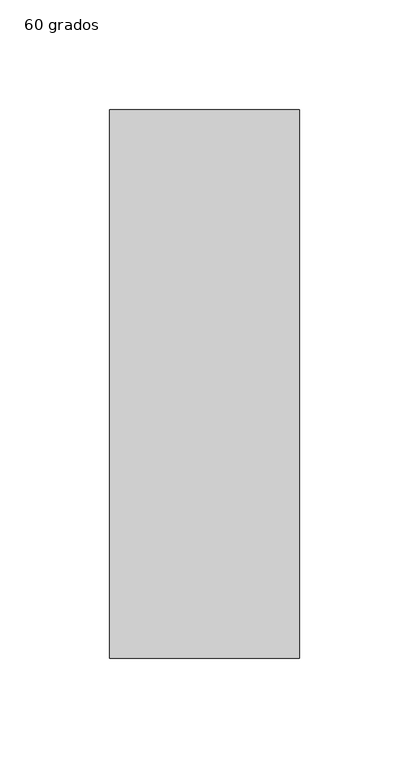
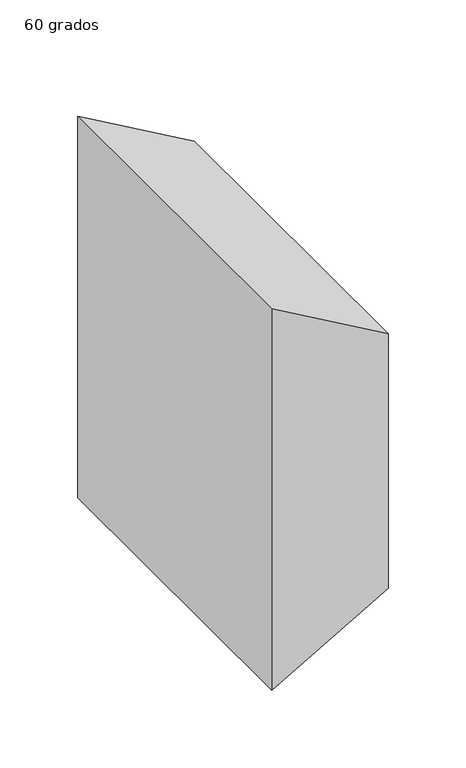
"""IFC4 building model written with IfcOpenShell, lengths in millimetres: duct fitting geometry, M_Transición rectangular - Ángulo : 60 grados."""

from ifc_helpers import new_model, si_unit, frame, origin, place, context, project, spatial, polyline, outline, extrude, source, transform, mapped, element, save


def duct_fitting_60_grados_c60a1f26(model_context):
    return source(origin(), model_context, "Body", "SweptSolid", [
        extrude(outline(polyline([(150.0, 0.0), (-150.0, 0.0), (-100.0, 86.6025404), (100.0, 86.6025404), (150.0, 0.0)])), frame((0.0, -125.0, 0.0), z_axis=(0.0, 1.0, 0.0), x_axis=(0.0, 0.0, 1.0)), (0.0, 0.0, 1.0), 250.0),
    ])


if __name__ == "__main__":
    model = new_model("IFC4")
    model_context = context("Model", 3, world=origin())
    ifc_project = project(units=[si_unit("LENGTHUNIT", "METRE", prefix="MILLI")], contexts=[model_context])
    site = spatial("IfcSite", under=ifc_project)
    building = spatial("IfcBuilding", under=site)
    placement = place(None, origin())
    duct_fitting_60_grados_shape = duct_fitting_60_grados_c60a1f26(model_context)
    element("IfcDuctFitting", 1, ObjectType="M_Transición rectangular - Ángulo : 60 grados", at=placement, inside=building, context=model_context, shape_type="MappedRepresentation", body=[
        mapped(duct_fitting_60_grados_shape, transform((0.0, 0.0, 0.0), x_axis=(1.0, 0.0, 0.0), y_axis=(0.0, 1.0, 0.0), z_axis=(0.0, 0.0, 1.0))),
    ])
    save(model, "model.ifc")
